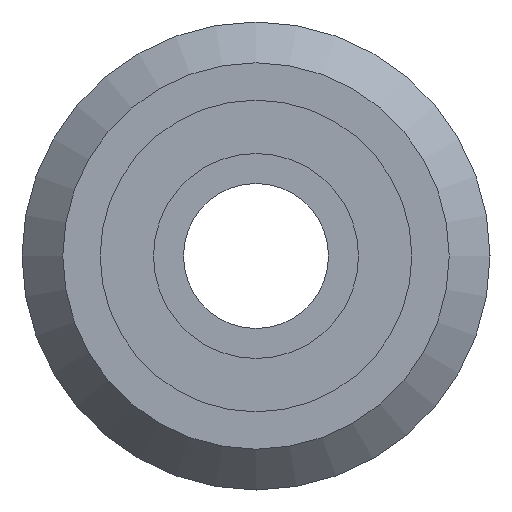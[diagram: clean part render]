
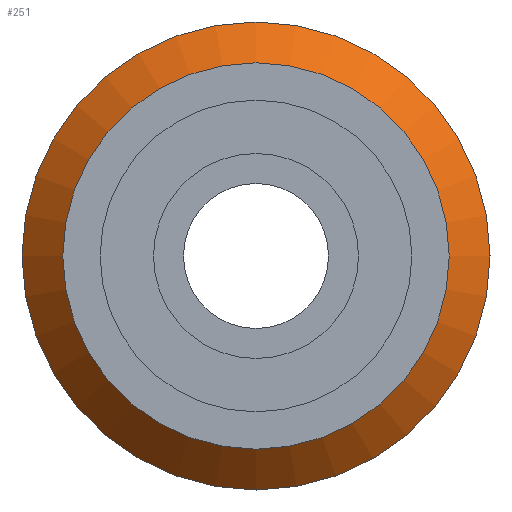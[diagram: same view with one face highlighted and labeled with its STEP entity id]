
A CAD part, front view. The second image highlights one B-rep face of the part: STEP entity #251.
In plain terms, the highlighted conical face has half-angle 45 degrees and reference radius 14.025 mm.
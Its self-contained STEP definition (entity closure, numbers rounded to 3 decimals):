
#217=CARTESIAN_POINT('',(0.0,-5.55,12.686));
#218=VERTEX_POINT('',#217);
#219=CARTESIAN_POINT('',(0.0,-5.55,0.0));
#220=DIRECTION('',(0.0,1.0,0.0));
#221=DIRECTION('',(0.0,0.0,1.0));
#222=AXIS2_PLACEMENT_3D('',#219,#220,#221);
#223=CIRCLE('',#222,12.686);
#224=EDGE_CURVE('',#218,#218,#223,.T.);
#232=CARTESIAN_POINT('',(0.0,-4.21,0.0));
#233=DIRECTION('',(0.0,1.0,0.0));
#234=DIRECTION('',(0.0,0.0,1.0));
#235=AXIS2_PLACEMENT_3D('',#232,#233,#234);
#236=CONICAL_SURFACE('',#235,14.025,45.);
#237=CARTESIAN_POINT('',(0.0,-2.871,15.365));
#238=VERTEX_POINT('',#237);
#239=CARTESIAN_POINT('',(0.0,-2.871,0.0));
#240=DIRECTION('',(0.0,1.0,0.0));
#241=DIRECTION('',(0.0,0.0,1.0));
#242=AXIS2_PLACEMENT_3D('',#239,#240,#241);
#243=CIRCLE('',#242,15.365);
#244=EDGE_CURVE('',#238,#238,#243,.T.);
#245=ORIENTED_EDGE('',*,*,#244,.F.);
#246=EDGE_LOOP('',(#245));
#247=FACE_OUTER_BOUND('',#246,.T.);
#248=ORIENTED_EDGE('',*,*,#224,.T.);
#249=EDGE_LOOP('',(#248));
#250=FACE_BOUND('',#249,.T.);
#251=ADVANCED_FACE('',(#247,#250),#236,.T.);
